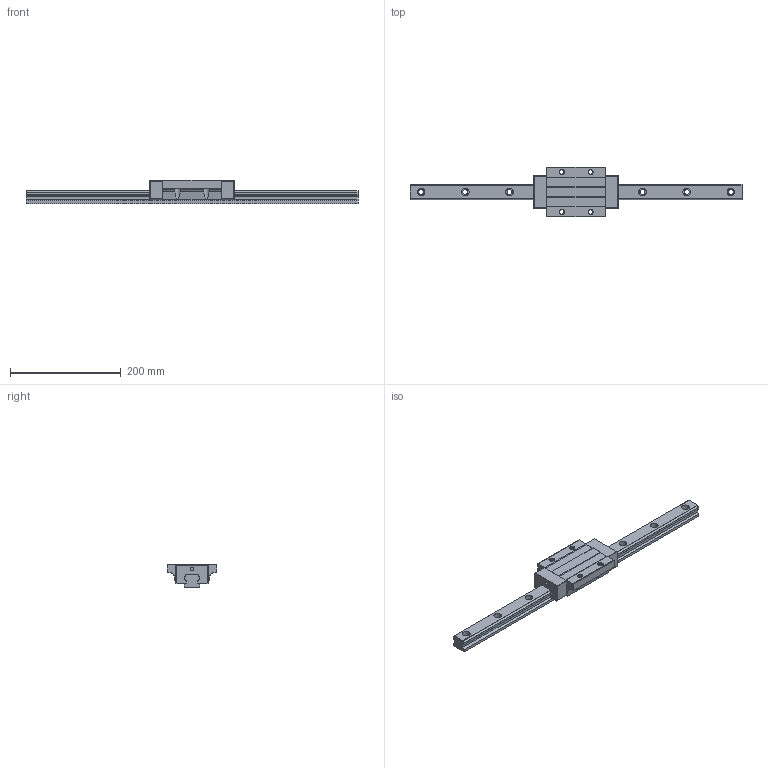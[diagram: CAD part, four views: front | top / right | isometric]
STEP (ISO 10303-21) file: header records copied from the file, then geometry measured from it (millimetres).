
FILE_DESCRIPTION (( 'STEP AP203' ), '1' );
FILE_NAME ('TRH30FE-WZ.-§ï.STEP', '2023-08-30T00:58:25', ( '' ), ( '' ), 'SwSTEP 2.0', 'SolidWorks 2022', '' );
FILE_SCHEMA (( 'CONFIG_CONTROL_DESIGN' ));
Length unit declared in the file: millimetre
Products named in the file (1): TRH30FE-WZ.-改
Bounding box: 600 x 90 x 42 mm (x, y, z)
Volume: 613107.3 mm3; surface area: 111548.7 mm2
Topology: 1 solids, 1 shells, 368 faces, 1066 edges, 704 vertices
Faces by surface type: cylinder 272, plane 84, bspline 8, sphere 4
Entity records: 25165 total; most frequent: CARTESIAN_POINT 15935, ORIENTED_EDGE 2124, DIRECTION 1614, EDGE_CURVE 1062, VERTEX_POINT 704, AXIS2_PLACEMENT_3D 565, LINE 484, VECTOR 484
